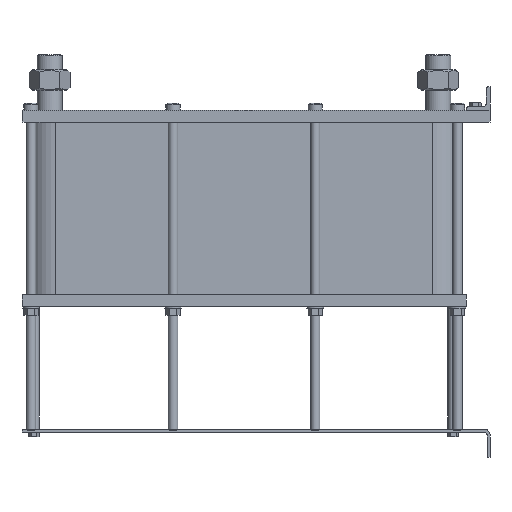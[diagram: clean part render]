
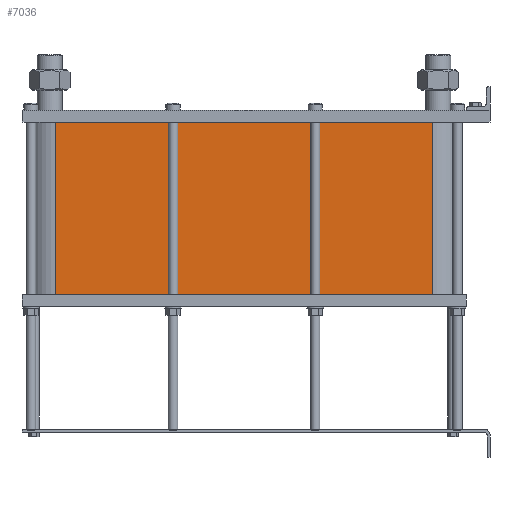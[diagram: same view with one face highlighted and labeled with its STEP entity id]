
A CAD part, left-side view. The second image highlights one B-rep face of the part: STEP entity #7036.
In plain terms, the highlighted planar face has unit normal (-1, 0, 0).
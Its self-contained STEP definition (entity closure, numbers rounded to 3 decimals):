
#999=LINE('',#15640,#1553);
#1031=LINE('',#15723,#1585);
#1032=LINE('',#15726,#1586);
#1033=LINE('',#15727,#1587);
#1553=VECTOR('',#9658,10.);
#1585=VECTOR('',#9736,10.);
#1586=VECTOR('',#9741,10.);
#1587=VECTOR('',#9742,10.);
#2117=FACE_OUTER_BOUND('',#2671,.T.);
#2671=EDGE_LOOP('',(#6246,#6247,#6248,#6249));
#3527=VERTEX_POINT('',#15634);
#3529=VERTEX_POINT('',#15638);
#3556=VERTEX_POINT('',#15720);
#3557=VERTEX_POINT('',#15722);
#4425=EDGE_CURVE('',#3529,#3527,#999,.T.);
#4466=EDGE_CURVE('',#3557,#3556,#1031,.T.);
#4468=EDGE_CURVE('',#3527,#3556,#1032,.T.);
#4469=EDGE_CURVE('',#3557,#3529,#1033,.T.);
#6246=ORIENTED_EDGE('',*,*,#4468,.F.);
#6247=ORIENTED_EDGE('',*,*,#4425,.F.);
#6248=ORIENTED_EDGE('',*,*,#4469,.F.);
#6249=ORIENTED_EDGE('',*,*,#4466,.T.);
#6608=PLANE('',#7812);
#7036=ADVANCED_FACE('',(#2117),#6608,.T.);
#7812=AXIS2_PLACEMENT_3D('',#15725,#9739,#9740);
#9658=DIRECTION('',(0.,0.,-1.));
#9736=DIRECTION('',(0.,0.,-1.));
#9739=DIRECTION('center_axis',(-1.,0.,0.));
#9740=DIRECTION('ref_axis',(0.,1.,0.));
#9741=DIRECTION('',(0.,1.,0.));
#9742=DIRECTION('',(0.,-1.,0.));
#15634=CARTESIAN_POINT('',(-72.,97.5,-291.4));
#15638=CARTESIAN_POINT('',(-72.,97.5,0.));
#15640=CARTESIAN_POINT('',(-72.,97.5,0.));
#15720=CARTESIAN_POINT('',(-72.,733.5,-291.4));
#15722=CARTESIAN_POINT('',(-72.,733.5,0.));
#15723=CARTESIAN_POINT('',(-72.,733.5,0.));
#15725=CARTESIAN_POINT('Origin',(-72.,97.5,0.));
#15726=CARTESIAN_POINT('',(-72.,256.5,-291.4));
#15727=CARTESIAN_POINT('',(-72.,733.5,0.));
